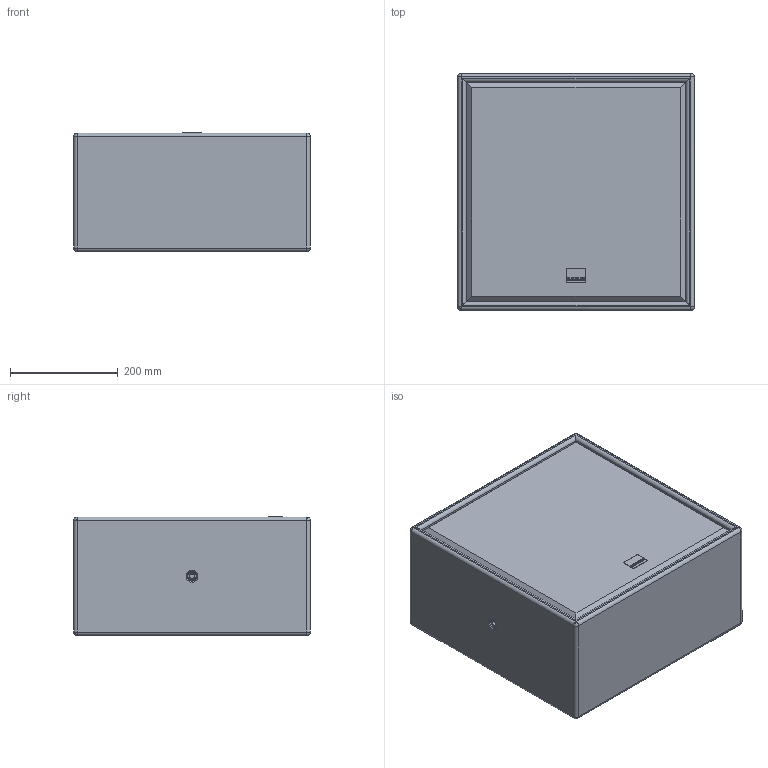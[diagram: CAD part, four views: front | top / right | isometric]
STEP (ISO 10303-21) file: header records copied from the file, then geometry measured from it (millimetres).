
FILE_DESCRIPTION (( 'STEP AP203' ), '1' );
FILE_NAME ('Seeburg_CXT-810.STEP', '2012-10-15T12:42:34', ( 'Fabian' ), ( '' ), 'SwSTEP 2.0', 'SolidWorks 2009', '' );
FILE_SCHEMA (( 'CONFIG_CONTROL_DESIGN' ));
Length unit declared in the file: millimetre
Products named in the file (2): Seeburg_CXT-810; CXT810
Assembly tree (1 placements, depth 2):
  Seeburg_CXT-810
    CXT810
Bounding box: 440 x 440 x 221.11 mm (x, y, z)
Volume: 11837806.9 mm3; surface area: 1468054.9 mm2
Topology: 21 solids, 21 shells, 392 faces, 953 edges, 606 vertices
Faces by surface type: cylinder 170, plane 162, cone 32, torus 16, sphere 12
Entity records: 12349 total; most frequent: CARTESIAN_POINT 2739, DIRECTION 2073, ORIENTED_EDGE 1890, EDGE_CURVE 945, AXIS2_PLACEMENT_3D 768, VERTEX_POINT 602, VECTOR 537, LINE 537
